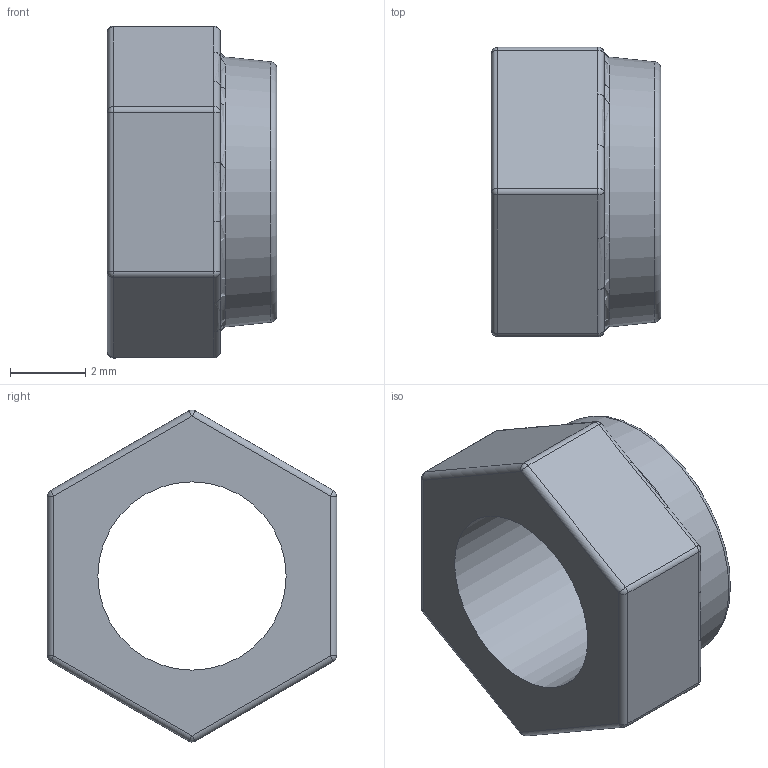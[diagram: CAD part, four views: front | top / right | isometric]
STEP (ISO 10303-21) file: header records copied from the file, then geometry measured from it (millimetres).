
FILE_DESCRIPTION(/* description */ ('STEP AP242 Edition 2','CAx-IF Rec.Pracs.---Representation and Presentation of Product Manufacturing Information (PMI)---4.0---2014-10-13','CAx-IF Rec.Pracs.---3D Tessellated Geometry---0.4---2014-09-14','2;1','CAx-IF Rec.Pracs.---User Defined Attributes---1.5---2016-08-15'),/* implementation_level */ '2;1');
FILE_NAME(/* name */ 'Final Build - M5 Locknut nut (13)',/* time_stamp */ '2026-08-31T23:26:15Z',/* author */ (''),/* organization */ (''),/* preprocessor_version */ 'ST-DEVELOPER v20',/* originating_system */ 'ONSHAPE BY PTC INC, 1.220',/* authorisation */ ' ');
FILE_SCHEMA (('AP242_MANAGED_MODEL_BASED_3D_ENGINEERING_MIM_LF { 1 0 10303 442 3 1 4 }'));
Length unit declared in the file: metre
Products named in the file (1): M5 Locknut nut
Bounding box: 4.5 x 7.68 x 8.82 mm (x, y, z)
Volume: 118.6 mm3; surface area: 236.8 mm2
Topology: 1 solids, 1 shells, 63 faces, 143 edges, 71 vertices
Faces by surface type: cylinder 26, plane 15, sphere 12, bspline 6, torus 3, cone 1
Full cylindrical faces by diameter (mm): 5 x1, 6 x1
Entity records: 1704 total; most frequent: CARTESIAN_POINT 397, DIRECTION 288, ORIENTED_EDGE 246, EDGE_CURVE 123, AXIS2_PLACEMENT_3D 120, EDGE_LOOP 72, FACE_BOUND 72, VERTEX_POINT 69
